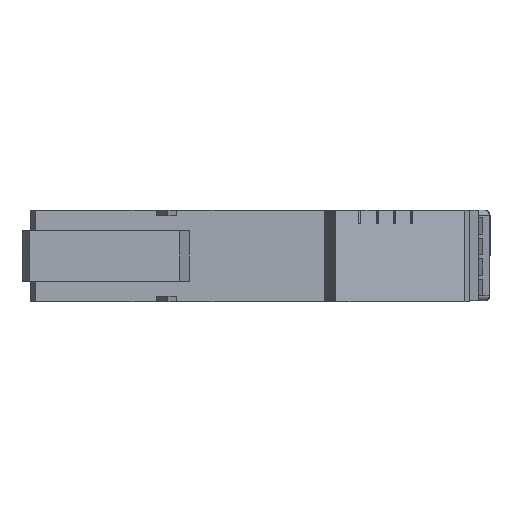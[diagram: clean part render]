
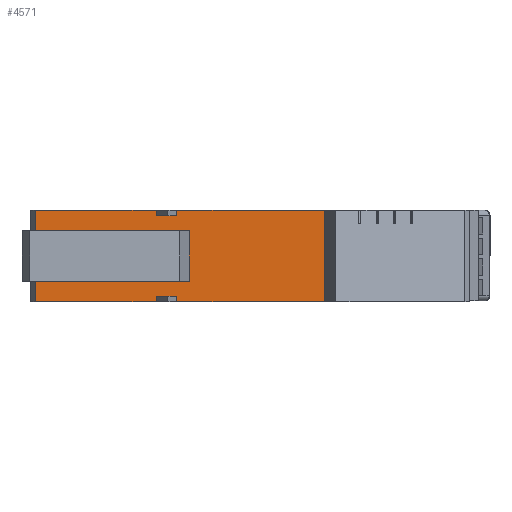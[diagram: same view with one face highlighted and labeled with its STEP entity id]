
A CAD part, front view. The second image highlights one B-rep face of the part: STEP entity #4571.
In plain terms, the highlighted planar face has unit normal (0, -1, 0).
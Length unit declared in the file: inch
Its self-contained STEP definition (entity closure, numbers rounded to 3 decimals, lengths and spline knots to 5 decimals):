
#154=DIRECTION('',(1.,0.,0.));
#155=VECTOR('',#154,1.17);
#156=CARTESIAN_POINT('',(-2.081,-2.0375,-0.443));
#157=LINE('',#156,#155);
#166=DIRECTION('',(1.,0.,0.));
#167=VECTOR('',#166,1.492);
#168=CARTESIAN_POINT('',(-0.711,-2.0375,-0.443));
#169=LINE('',#168,#167);
#706=DIRECTION('',(1.,0.,0.));
#707=VECTOR('',#706,1.492);
#708=CARTESIAN_POINT('',(-0.711,-2.0375,0.443));
#709=LINE('',#708,#707);
#718=DIRECTION('',(1.,0.,0.));
#719=VECTOR('',#718,1.17);
#720=CARTESIAN_POINT('',(-2.081,-2.0375,0.443));
#721=LINE('',#720,#719);
#1418=DIRECTION('',(0.,0.,1.));
#1419=VECTOR('',#1418,0.886);
#1420=CARTESIAN_POINT('',(0.781,-2.0375,-0.443));
#1421=LINE('',#1420,#1419);
#1422=DIRECTION('',(0.,0.,1.));
#1423=VECTOR('',#1422,0.055);
#1424=CARTESIAN_POINT('',(-0.711,-2.0375,-0.443));
#1425=LINE('',#1424,#1423);
#1426=DIRECTION('',(0.,0.,1.));
#1427=VECTOR('',#1426,0.055);
#1428=CARTESIAN_POINT('',(-0.911,-2.0375,-0.443));
#1429=LINE('',#1428,#1427);
#1430=DIRECTION('',(0.,0.,1.));
#1431=VECTOR('',#1430,0.199);
#1432=CARTESIAN_POINT('',(-2.081,-2.0375,-0.443));
#1433=LINE('',#1432,#1431);
#1434=DIRECTION('',(1.,0.,0.));
#1435=VECTOR('',#1434,1.49);
#1436=CARTESIAN_POINT('',(-2.081,-2.0375,-0.244));
#1437=LINE('',#1436,#1435);
#1438=DIRECTION('',(0.,0.,1.));
#1439=VECTOR('',#1438,0.488);
#1440=CARTESIAN_POINT('',(-0.591,-2.0375,-0.244));
#1441=LINE('',#1440,#1439);
#1442=DIRECTION('',(1.,0.,0.));
#1443=VECTOR('',#1442,1.49);
#1444=CARTESIAN_POINT('',(-2.081,-2.0375,0.244));
#1445=LINE('',#1444,#1443);
#1446=DIRECTION('',(0.,0.,1.));
#1447=VECTOR('',#1446,0.199);
#1448=CARTESIAN_POINT('',(-2.081,-2.0375,0.244));
#1449=LINE('',#1448,#1447);
#1450=DIRECTION('',(0.,0.,1.));
#1451=VECTOR('',#1450,0.055);
#1452=CARTESIAN_POINT('',(-0.911,-2.0375,0.388));
#1453=LINE('',#1452,#1451);
#1454=DIRECTION('',(1.,0.,0.));
#1455=VECTOR('',#1454,0.2);
#1456=CARTESIAN_POINT('',(-0.911,-2.0375,0.388));
#1457=LINE('',#1456,#1455);
#1458=DIRECTION('',(0.,0.,1.));
#1459=VECTOR('',#1458,0.055);
#1460=CARTESIAN_POINT('',(-0.711,-2.0375,0.388));
#1461=LINE('',#1460,#1459);
#1478=DIRECTION('',(1.,0.,0.));
#1479=VECTOR('',#1478,0.2);
#1480=CARTESIAN_POINT('',(-0.911,-2.0375,-0.388));
#1481=LINE('',#1480,#1479);
#1966=CARTESIAN_POINT('',(-2.081,-2.0375,-0.443));
#1967=CARTESIAN_POINT('',(-0.911,-2.0375,-0.443));
#1968=VERTEX_POINT('',#1966);
#1969=VERTEX_POINT('',#1967);
#1970=CARTESIAN_POINT('',(-2.081,-2.0375,0.443));
#1971=CARTESIAN_POINT('',(-0.911,-2.0375,0.443));
#1972=VERTEX_POINT('',#1970);
#1973=VERTEX_POINT('',#1971);
#1976=CARTESIAN_POINT('',(-0.711,-2.0375,0.443));
#1977=VERTEX_POINT('',#1976);
#1980=CARTESIAN_POINT('',(-0.711,-2.0375,-0.443));
#1981=VERTEX_POINT('',#1980);
#1982=CARTESIAN_POINT('',(-0.911,-2.0375,-0.388));
#1984=VERTEX_POINT('',#1982);
#1986=CARTESIAN_POINT('',(-0.911,-2.0375,0.388));
#1988=VERTEX_POINT('',#1986);
#1990=CARTESIAN_POINT('',(-0.711,-2.0375,-0.388));
#1991=VERTEX_POINT('',#1990);
#1992=CARTESIAN_POINT('',(-0.711,-2.0375,0.388));
#1993=VERTEX_POINT('',#1992);
#2006=CARTESIAN_POINT('',(-2.081,-2.0375,-0.244));
#2007=CARTESIAN_POINT('',(-2.081,-2.0375,0.244));
#2008=VERTEX_POINT('',#2006);
#2009=VERTEX_POINT('',#2007);
#2010=CARTESIAN_POINT('',(-0.591,-2.0375,-0.244));
#2011=VERTEX_POINT('',#2010);
#2012=CARTESIAN_POINT('',(-0.591,-2.0375,0.244));
#2013=VERTEX_POINT('',#2012);
#2026=CARTESIAN_POINT('',(0.781,-2.0375,-0.443));
#2027=CARTESIAN_POINT('',(0.781,-2.0375,0.443));
#2028=VERTEX_POINT('',#2026);
#2029=VERTEX_POINT('',#2027);
#4537=CARTESIAN_POINT('',(-2.081,-2.0375,-0.443));
#4538=DIRECTION('',(0.,-1.,0.));
#4539=DIRECTION('',(1.,0.,0.));
#4540=AXIS2_PLACEMENT_3D('',#4537,#4538,#4539);
#4541=PLANE('',#4540);
#4542=ORIENTED_EDGE('',*,*,#4529,.F.);
#4543=ORIENTED_EDGE('',*,*,#2645,.F.);
#4545=ORIENTED_EDGE('',*,*,#4544,.T.);
#4547=ORIENTED_EDGE('',*,*,#4546,.F.);
#4549=ORIENTED_EDGE('',*,*,#4548,.F.);
#4550=ORIENTED_EDGE('',*,*,#2639,.F.);
#4552=ORIENTED_EDGE('',*,*,#4551,.T.);
#4554=ORIENTED_EDGE('',*,*,#4553,.T.);
#4556=ORIENTED_EDGE('',*,*,#4555,.T.);
#4558=ORIENTED_EDGE('',*,*,#4557,.F.);
#4560=ORIENTED_EDGE('',*,*,#4559,.T.);
#4561=ORIENTED_EDGE('',*,*,#3263,.T.);
#4563=ORIENTED_EDGE('',*,*,#4562,.F.);
#4565=ORIENTED_EDGE('',*,*,#4564,.T.);
#4567=ORIENTED_EDGE('',*,*,#4566,.T.);
#4568=ORIENTED_EDGE('',*,*,#3257,.T.);
#4569=EDGE_LOOP('',(#4542,#4543,#4545,#4547,#4549,#4550,#4552,#4554,#4556,#4558,
#4560,#4561,#4563,#4565,#4567,#4568));
#4570=FACE_OUTER_BOUND('',#4569,.F.);
#4571=ADVANCED_FACE('',(#4570),#4541,.T.);
#2639=EDGE_CURVE('',#1968,#1969,#157,.T.);
#2645=EDGE_CURVE('',#1981,#2028,#169,.T.);
#3257=EDGE_CURVE('',#1977,#2029,#709,.T.);
#3263=EDGE_CURVE('',#1972,#1973,#721,.T.);
#4529=EDGE_CURVE('',#2028,#2029,#1421,.T.);
#4544=EDGE_CURVE('',#1981,#1991,#1425,.T.);
#4546=EDGE_CURVE('',#1984,#1991,#1481,.T.);
#4548=EDGE_CURVE('',#1969,#1984,#1429,.T.);
#4551=EDGE_CURVE('',#1968,#2008,#1433,.T.);
#4553=EDGE_CURVE('',#2008,#2011,#1437,.T.);
#4555=EDGE_CURVE('',#2011,#2013,#1441,.T.);
#4557=EDGE_CURVE('',#2009,#2013,#1445,.T.);
#4559=EDGE_CURVE('',#2009,#1972,#1449,.T.);
#4562=EDGE_CURVE('',#1988,#1973,#1453,.T.);
#4564=EDGE_CURVE('',#1988,#1993,#1457,.T.);
#4566=EDGE_CURVE('',#1993,#1977,#1461,.T.);
